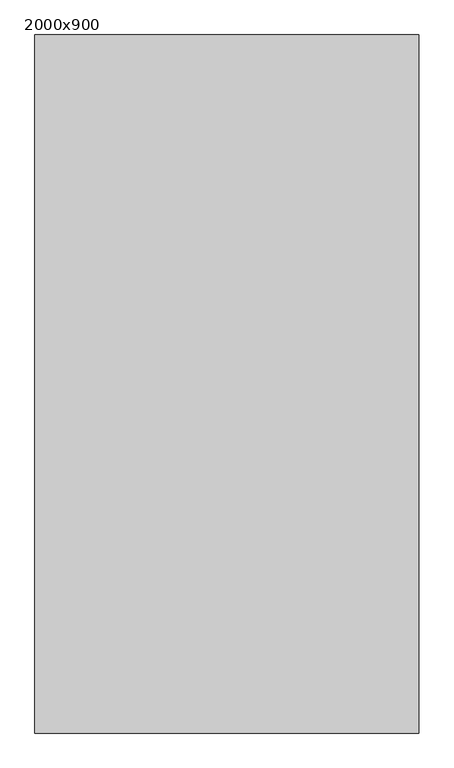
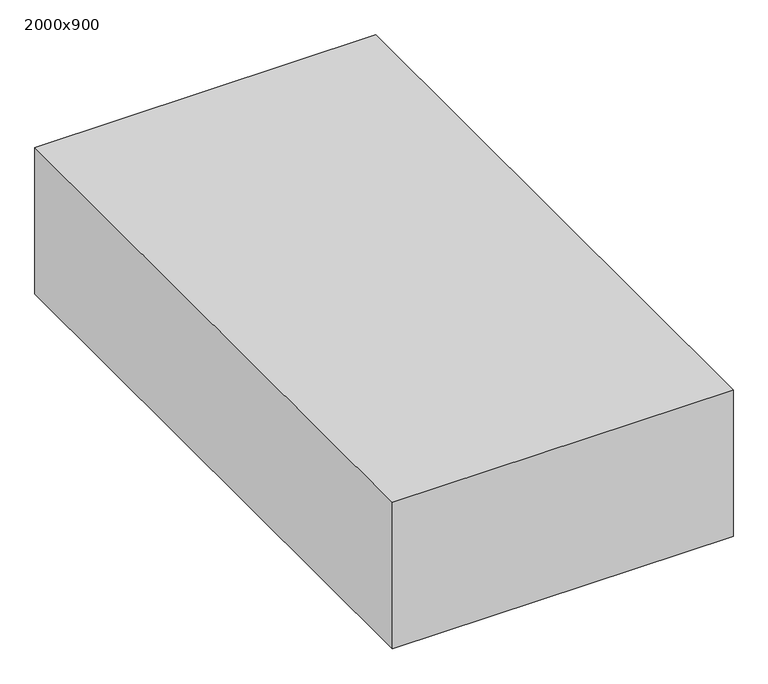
"""IFC4 building model written with IfcOpenShell, lengths in millimetres: furniture geometry, Fu_кровать x1_LEG : 2000x900."""

from ifc_helpers import new_model, si_unit, origin, origin_with_axes, place, context, project, spatial, polyline, outline, extrude, source, transform, mapped, element, save


def furniture_2000x900_58b30379(model_context):
    return source(origin(), model_context, "Body", "SweptSolid", [
        extrude(outline(polyline([(100.0, 765.5704918), (100.0, -1234.4295082), (-1000.0, -1234.4295082), (-1000.0, 765.5704918), (100.0, 765.5704918)])), origin_with_axes(), (0.0, 0.0, 1.0), 500.0),
    ])


if __name__ == "__main__":
    model = new_model("IFC4")
    model_context = context("Model", 3, world=origin())
    ifc_project = project(units=[si_unit("LENGTHUNIT", "METRE", prefix="MILLI")], contexts=[model_context])
    site = spatial("IfcSite", under=ifc_project)
    building = spatial("IfcBuilding", under=site)
    placement = place(None, origin())
    furniture_2000x900_shape = furniture_2000x900_58b30379(model_context)
    element("IfcFurniture", 1, ObjectType="Fu_кровать x1_LEG : 2000x900", at=placement, inside=building, context=model_context, shape_type="MappedRepresentation", body=[
        mapped(furniture_2000x900_shape, transform((0.0, 0.0, 0.0), x_axis=(1.0, 0.0, 0.0), y_axis=(0.0, 1.0, 0.0), z_axis=(0.0, 0.0, 1.0))),
    ])
    save(model, "model.ifc")
